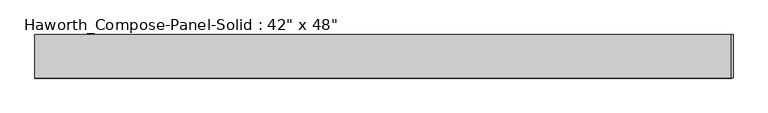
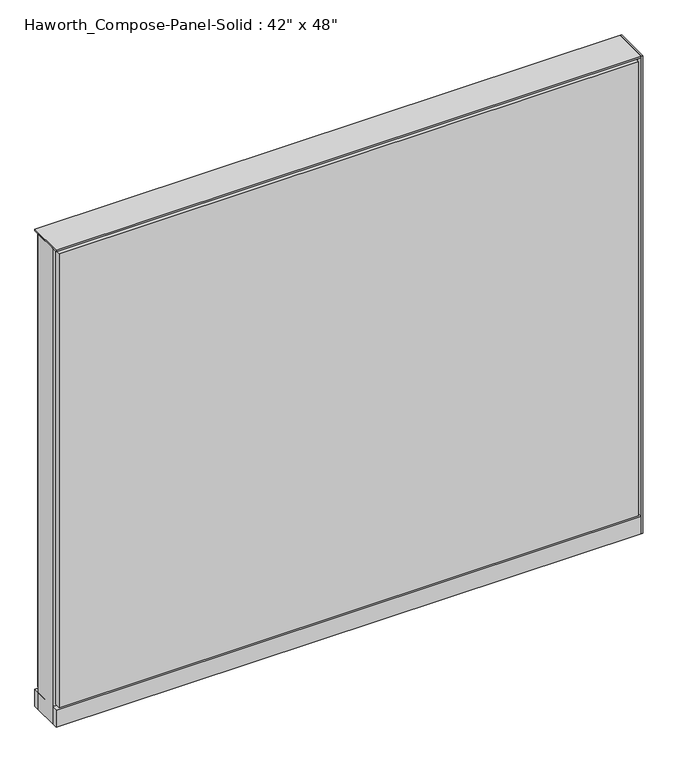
"""IFC4 building model written with IfcOpenShell, lengths in millimetres: furniture geometry."""

import ifcopenshell
import ifcopenshell.guid

model = None  # the IFC model being written
_history = None  # IfcOwnerHistory: only IFC2X3 demands one
_inside = {}  # id of a spatial element -> (the spatial element, [elements in it])
_under = {}  # id of a project, library or spatial element -> (it, [spatial elements below it])
_declared = {}  # id of a project -> (the project, [libraries it declares])
_typed = {}  # id of a type object -> (the type object, [elements of that type])
_made_of = {}  # id of a material, layer set ... -> (it, [elements and type objects made of it])


def new_model(schema):
    """Start an empty IFC model of exactly this schema.

    Asked for "IFC4X3", IfcOpenShell would pick the latest addendum, in which some entities
    have other attributes; the version numbers below select the first issue.
    IFC2X3 requires an IfcOwnerHistory on every rooted entity: one is made here for all.
    """
    global model, _history
    if schema == "IFC4X3":
        model = ifcopenshell.file(schema_version=(4, 3, 0, 0))
    else:
        model = ifcopenshell.file(schema=schema)
    _inside.clear()
    _under.clear()
    _declared.clear()
    _typed.clear()
    _made_of.clear()
    _history = None
    if model.schema == "IFC2X3":
        org = make("IfcOrganization", Name="unknown")
        user = make(
            "IfcPersonAndOrganization",
            ThePerson=make("IfcPerson", FamilyName="unknown"),
            TheOrganization=org,
        )
        app = make(
            "IfcApplication",
            ApplicationDeveloper=org,
            Version="unknown",
            ApplicationFullName="unknown",
            ApplicationIdentifier="unknown",
        )
        _history = make(
            "IfcOwnerHistory",
            OwningUser=user,
            OwningApplication=app,
            ChangeAction="ADDED",
            CreationDate=0,
        )
    return model


def make(cls, **values):
    """One entity of the class cls with the attributes given. An attribute that is None is left unset."""
    return model.create_entity(
        cls, **{name: value for name, value in values.items() if value is not None}
    )


def rooted(cls, **values):
    """An entity with a GlobalId (a new one), such as an element, a storey or a relation."""
    return make(cls, GlobalId=ifcopenshell.guid.new(), OwnerHistory=_history, **values)


def si_unit(unit_type, name, prefix=None):
    """IfcSIUnit, for example si_unit("LENGTHUNIT", "METRE", prefix="MILLI")."""
    return make("IfcSIUnit", UnitType=unit_type, Prefix=prefix, Name=name)


def assignment(units):
    """IfcUnitAssignment: the units of a project."""
    return None if units is None else make("IfcUnitAssignment", Units=units)


def point(xyz):
    """IfcCartesianPoint."""
    return None if xyz is None else make("IfcCartesianPoint", Coordinates=xyz)


def direction(xyz):
    """IfcDirection."""
    return None if xyz is None else make("IfcDirection", DirectionRatios=xyz)


def frame(location, z_axis=None, x_axis=None):
    """IfcAxis2Placement3D, a coordinate frame: its origin and axes. An axis left out is left unset."""
    return make(
        "IfcAxis2Placement3D",
        Location=point(location),
        Axis=direction(z_axis),
        RefDirection=direction(x_axis),
    )


def frame_2d(location, x_axis=None):
    """IfcAxis2Placement2D, a coordinate frame in the plane: its origin and x axis."""
    return make(
        "IfcAxis2Placement2D", Location=point(location), RefDirection=direction(x_axis)
    )


def origin():
    """The frame at (0, 0, 0) with its axes left unset."""
    return frame((0.0, 0.0, 0.0))


def origin_with_axes():
    """The frame at (0, 0, 0) with the z axis (0, 0, 1) and the x axis (1, 0, 0) written out."""
    return frame((0.0, 0.0, 0.0), z_axis=(0.0, 0.0, 1.0), x_axis=(1.0, 0.0, 0.0))


def place(relative_to, where):
    """IfcLocalPlacement: puts the frame where relative to a parent placement (None: the world)."""
    return make(
        "IfcLocalPlacement", PlacementRelTo=relative_to, RelativePlacement=where
    )


def context(
    kind, dimensions, precision=None, world=None, true_north=None, identifier=None
):
    """IfcGeometricRepresentationContext, for example the 3D "Model" context."""
    return make(
        "IfcGeometricRepresentationContext",
        ContextIdentifier=identifier,
        ContextType=kind,
        CoordinateSpaceDimension=dimensions,
        Precision=precision,
        WorldCoordinateSystem=world,
        TrueNorth=true_north,
    )


def project(units=None, contexts=None):
    """IfcProject with its units and contexts."""
    return rooted(
        "IfcProject",
        Name="project",
        RepresentationContexts=contexts,
        UnitsInContext=assignment(units),
    )


def spatial(cls, under=None, at=None, **own):
    """A site, building, storey or space (cls), placed at a placement, below another one or the project."""
    s = rooted(cls, ObjectPlacement=at, **own)
    if under is not None:
        _under.setdefault(under.id(), (under, []))[1].append(s)
    return s


def polyline(points):
    """IfcPolyline through the points."""
    return make("IfcPolyline", Points=[point(p) for p in points])


def circle_curve(where, radius):
    """IfcCircle in the frame where."""
    return make("IfcCircle", Position=where, Radius=radius)


def trimmed(basis, trim1, trim2, sense, master):
    """IfcTrimmedCurve: the piece of a basis curve between two trims."""
    return make(
        "IfcTrimmedCurve",
        BasisCurve=basis,
        Trim1=trim1,
        Trim2=trim2,
        SenseAgreement=sense,
        MasterRepresentation=master,
    )


def segment(curve, same_sense, transition):
    """IfcCompositeCurveSegment."""
    return make(
        "IfcCompositeCurveSegment",
        Transition=transition,
        SameSense=same_sense,
        ParentCurve=curve,
    )


def composite_curve(segments, self_intersect=None):
    """IfcCompositeCurve: segments joined end to end."""
    return make("IfcCompositeCurve", Segments=segments, SelfIntersect=self_intersect)


def outline(outer, holes=None, kind="AREA"):
    """IfcArbitraryClosedProfileDef: a profile drawn as a closed curve; with holes, ...WithVoids."""
    if holes is None:
        return make("IfcArbitraryClosedProfileDef", ProfileType=kind, OuterCurve=outer)
    return make(
        "IfcArbitraryProfileDefWithVoids",
        ProfileType=kind,
        OuterCurve=outer,
        InnerCurves=holes,
    )


def extrude(swept, where, along, depth):
    """IfcExtrudedAreaSolid: the profile swept, set in the frame where, extruded along a direction by depth."""
    return make(
        "IfcExtrudedAreaSolid",
        SweptArea=swept,
        Position=where,
        ExtrudedDirection=direction(along),
        Depth=depth,
    )


def shape(context_of_items, identifier, shape_type, items):
    """IfcShapeRepresentation: the items that make up one representation, for example the "Body"."""
    return make(
        "IfcShapeRepresentation",
        ContextOfItems=context_of_items,
        RepresentationIdentifier=identifier,
        RepresentationType=shape_type,
        Items=items,
    )


def source(mapping_origin, context_of_items, identifier, shape_type, items):
    """IfcRepresentationMap: a shape defined once, which mapped items show again and again."""
    return make(
        "IfcRepresentationMap",
        MappingOrigin=mapping_origin,
        MappedRepresentation=shape(context_of_items, identifier, shape_type, items),
    )


def transform(
    local_origin,
    x_axis=None,
    y_axis=None,
    z_axis=None,
    scale=None,
    scale2=None,
    scale3=None,
    uniform=True,
):
    """IfcCartesianTransformationOperator3D, or its non-uniform kind. x_axis, y_axis, z_axis: its Axis1, 2, 3."""
    if uniform:
        return make(
            "IfcCartesianTransformationOperator3D",
            Axis1=direction(x_axis),
            Axis2=direction(y_axis),
            LocalOrigin=point(local_origin),
            Scale=scale,
            Axis3=direction(z_axis),
        )
    return make(
        "IfcCartesianTransformationOperator3DnonUniform",
        Axis1=direction(x_axis),
        Axis2=direction(y_axis),
        LocalOrigin=point(local_origin),
        Scale=scale,
        Axis3=direction(z_axis),
        Scale2=scale2,
        Scale3=scale3,
    )


def mapped(mapping_source, mapping_target):
    """IfcMappedItem: shows the shape of a source again, moved by a transform."""
    return make(
        "IfcMappedItem", MappingSource=mapping_source, MappingTarget=mapping_target
    )


def made_of(thing, what):
    """Note that an element or type object is made of a material, layer set ...; save() writes the relation."""
    if what is not None:
        _made_of.setdefault(what.id(), (what, []))[1].append(thing)
    return thing


def element(
    cls,
    number,
    at=None,
    inside=None,
    cuts=None,
    type_object=None,
    material=None,
    context=None,
    identifier="Body",
    shape_type=None,
    held_by="IfcProductDefinitionShape",
    body=None,
    shapes=None,
    **own,
):
    """One element of the class cls, such as IfcWall. Its Tag is "e" and its number.

    at: its placement. inside: the storey or other place that contains it. cuts: it is an
    opening in that element (IfcRelVoidsElement). A single representation is given by context,
    identifier, shape_type and body (its items); several are given by shapes. held_by: the class
    of the entity that holds the representations. save() writes the other relations.
    """
    e = rooted(cls, Tag="e%d" % number, ObjectPlacement=at, **own)
    if body is not None:
        shapes = [shape(context, identifier, shape_type, body)]
    if shapes is not None:
        e.Representation = make(held_by, Representations=shapes)
    if inside is not None:
        _inside.setdefault(inside.id(), (inside, []))[1].append(e)
    if cuts is not None:
        rooted(
            "IfcRelVoidsElement", RelatingBuildingElement=cuts, RelatedOpeningElement=e
        )
    if type_object is not None:
        _typed.setdefault(type_object.id(), (type_object, []))[1].append(e)
    return made_of(e, material)


def aggregate(whole, parts):
    """IfcRelAggregates: a whole, such as a stair, and the parts it consists of."""
    return rooted("IfcRelAggregates", RelatingObject=whole, RelatedObjects=parts)


def save(model, path):
    """Write the relations noted so far, then the file.

    IfcRelAggregates (storeys below a building ...), IfcRelContainedInSpatialStructure (elements
    in a storey), IfcRelDefinesByType, IfcRelAssociatesMaterial and IfcRelDeclares: one each for
    every whole, place, type object, material and project.
    """
    for whole, parts in _under.values():
        aggregate(whole, parts)
    for where, things in _inside.values():
        rooted(
            "IfcRelContainedInSpatialStructure",
            RelatedElements=things,
            RelatingStructure=where,
        )
    for kind, things in _typed.values():
        rooted("IfcRelDefinesByType", RelatedObjects=things, RelatingType=kind)
    for what, things in _made_of.values():
        rooted("IfcRelAssociatesMaterial", RelatedObjects=things, RelatingMaterial=what)
    for by, libraries in _declared.values():
        rooted("IfcRelDeclares", RelatingContext=by, RelatedDefinitions=libraries)
    model.write(path)


def furniture_6891fcb2(model_context):
    return source(origin(), model_context, "Body", "SweptSolid", [
        extrude(outline(composite_curve([segment(trimmed(circle_curve(frame_2d((-530.9597098, 0.0)), 12.7), [point((-543.6597098, 0.0))], [point((-518.2597098, 0.0))], False, "CARTESIAN"), True, "CONTINUOUS"), segment(trimmed(circle_curve(frame_2d((-530.9597098, 0.0)), 12.7), [point((-518.2597098, 0.0))], [point((-543.6597098, 0.0))], False, "CARTESIAN"), True, "CONTINUOUS")], self_intersect=False)), origin_with_axes(), (0.0, 0.0, 1.0), 12.7),
        extrude(outline(composite_curve([segment(trimmed(circle_curve(frame_2d((535.8402902, 0.0)), 12.7), [point((523.1402902, 0.0))], [point((548.5402902, 0.0))], False, "CARTESIAN"), True, "CONTINUOUS"), segment(trimmed(circle_curve(frame_2d((535.8402902, 0.0)), 12.7), [point((548.5402902, 0.0))], [point((523.1402902, 0.0))], False, "CARTESIAN"), True, "CONTINUOUS")], self_intersect=False)), origin_with_axes(), (0.0, 0.0, 1.0), 12.7),
        extrude(outline(polyline([(615.2152902, -38.1), (612.0402902, -38.1), (612.0402902, 38.1), (615.2152902, 38.1), (615.2152902, -38.1)])), frame((0.0, 0.0, 12.7), z_axis=(0.0, 0.0, 1.0), x_axis=(1.0, 0.0, 0.0)), (0.0, 0.0, 1.0), 1050.925),
        extrude(outline(polyline([(605.6902902, -38.1), (-600.8097098, -38.1), (-600.8097098, -25.4), (605.6902902, -25.4), (605.6902902, -38.1)])), frame((0.0, 0.0, 53.975), z_axis=(0.0, 0.0, 1.0), x_axis=(1.0, 0.0, 0.0)), (0.0, 0.0, 1.0), 1000.125),
        extrude(outline(polyline([(605.6902902, 38.1), (605.6902902, 25.4), (-600.8097098, 25.4), (-600.8097098, 38.1), (605.6902902, 38.1)])), frame((0.0, 0.0, 53.975), z_axis=(0.0, 0.0, 1.0), x_axis=(1.0, 0.0, 0.0)), (0.0, 0.0, 1.0), 1000.125),
        extrude(outline(polyline([(612.0402902, -25.4), (-607.1597098, -25.4), (-607.1597098, 25.4), (612.0402902, 25.4), (612.0402902, -25.4)])), frame((0.0, 0.0, 12.7), z_axis=(0.0, 0.0, 1.0), x_axis=(1.0, 0.0, 0.0)), (0.0, 0.0, 1.0), 1047.75),
        extrude(outline(polyline([(-607.1597098, 38.1), (612.0402902, 38.1), (612.0402902, -38.1), (-607.1597098, -38.1), (-607.1597098, 38.1)])), frame((0.0, 0.0, 12.7), z_axis=(0.0, 0.0, 1.0), x_axis=(1.0, 0.0, 0.0)), (0.0, 0.0, 1.0), 38.1),
        extrude(outline(polyline([(-607.1597098, 38.1), (612.0402902, 38.1), (612.0402902, -38.1), (-607.1597098, -38.1), (-607.1597098, 38.1)])), frame((0.0, 0.0, 1060.45), z_axis=(0.0, 0.0, 1.0), x_axis=(1.0, 0.0, 0.0)), (0.0, 0.0, 1.0), 3.175),
    ])


if __name__ == "__main__":
    model = new_model("IFC4")
    model_context = context("Model", 3, world=origin())
    ifc_project = project(units=[si_unit("LENGTHUNIT", "METRE", prefix="MILLI")], contexts=[model_context])
    site = spatial("IfcSite", under=ifc_project)
    building = spatial("IfcBuilding", under=site)
    placement = place(None, origin())
    furniture_shape = furniture_6891fcb2(model_context)
    element("IfcFurniture", 1, ObjectType="Haworth_Compose-Panel-Solid : 42\" x 48\"", at=placement, inside=building, context=model_context, shape_type="MappedRepresentation", body=[
        mapped(furniture_shape, transform((0.0, 0.0, 0.0), x_axis=(1.0, 0.0, 0.0), y_axis=(0.0, 1.0, 0.0), z_axis=(0.0, 0.0, 1.0))),
    ])
    save(model, "model.ifc")
